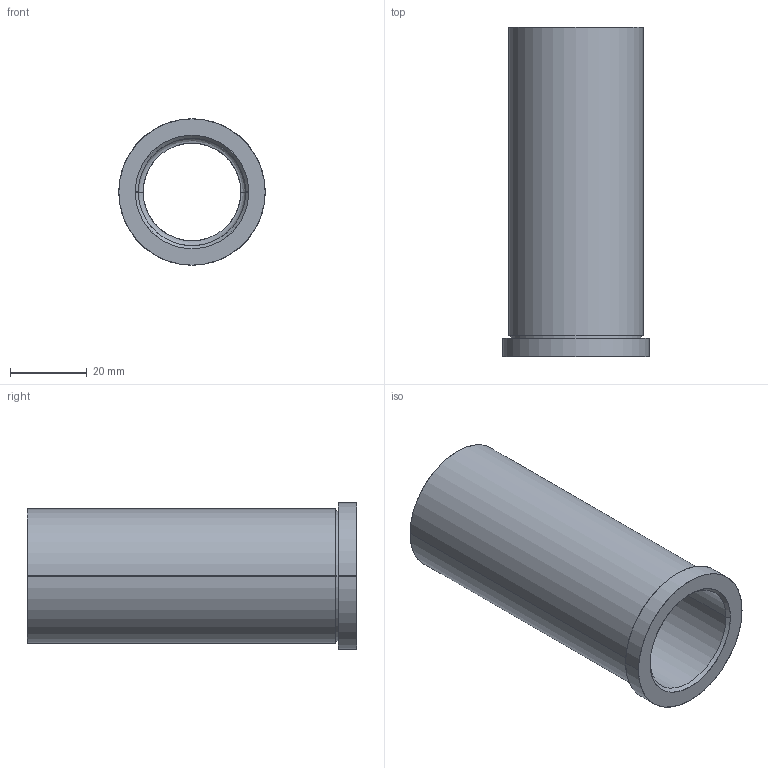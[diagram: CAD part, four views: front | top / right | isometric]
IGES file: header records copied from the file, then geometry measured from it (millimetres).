
Start section: SolidWorks IGES file using analytic representation for surfaces
Global section: file name: C:\Users\Ryan\Documents\PCS\Shoulder Bushings\BU-305.igs; native system: SolidWorks 2009; preprocessor: SolidWorks 2009; author: Ryan; date: 140226.220536; units: inch
Bounding box: 38.1 x 85.72 x 38.1 mm (x, y, z)
Surface area: 17812.6 mm2 (no closed solid volume)
Topology: 0 solids, 0 shells, 20 faces, 576 edges, 576 vertices
Faces by surface type: revolution 12, bspline 8
